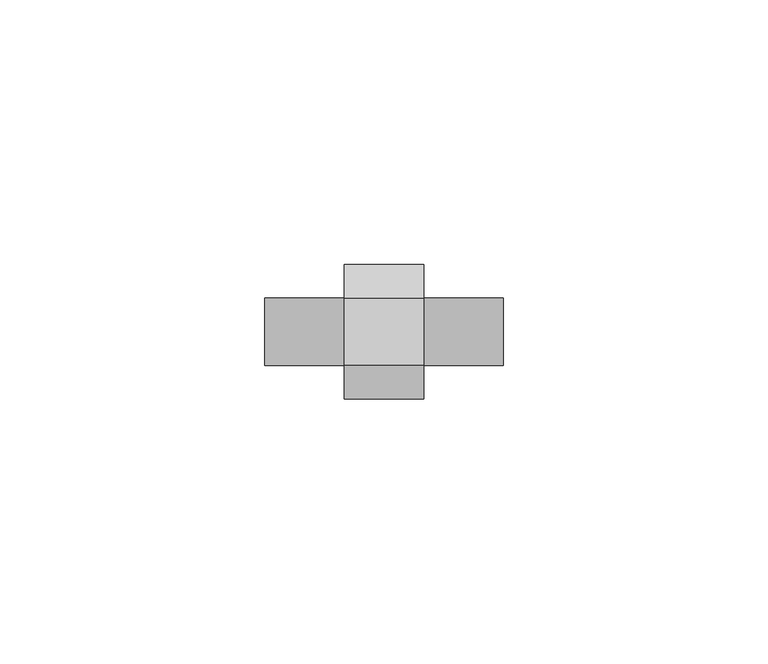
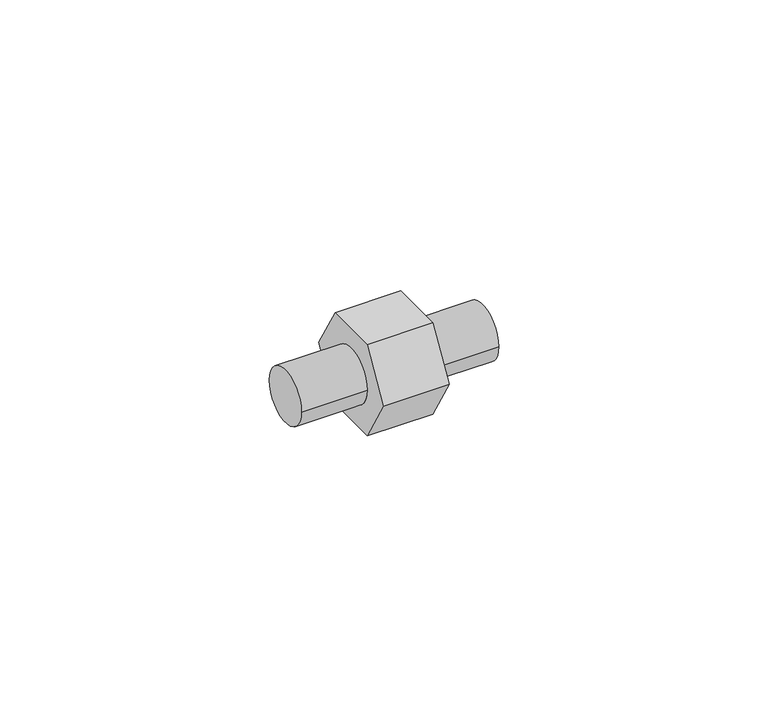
"""IFC4 building model written with IfcOpenShell, lengths in millimetres: pipe fitting geometry, 01011009 : Mamelons doubles."""

from ifc_helpers import new_model, si_unit, frame, origin, place, context, project, spatial, circle_curve, source, transform, mapped, element, save
from ifc_brep_helpers import plane_surface, cylinder_surface, advanced_brep


def pipe_fitting_ac9a2424(model_context):
    return source(origin(), model_context, "Body", "AdvancedBrep", [
        advanced_brep(
        [(7.5, -6.350853, 11.0), (7.5, -12.7017059, 0.0), (7.5, -6.350853, -11.0), (7.5, 6.350853, -11.0), (7.5, 12.7017059, 0.0), (7.5, 6.350853, 11.0), (7.5, -6.35, 0.0), (7.5, 6.35, 0.0), (-7.5, -6.350853, 11.0), (-7.5, 6.350853, 11.0), (-7.5, 12.7017059, 0.0), (-7.5, 6.350853, -11.0), (-7.5, -6.350853, -11.0), (-7.5, -12.7017059, 0.0), (-7.5, 6.35, 0.0), (-7.5, -6.35, 0.0), (-22.5, -6.35, 0.0), (-22.5, 6.35, 0.0), (22.5, -6.35, 0.0), (22.5, 6.35, 0.0)],
        [
            (0, 1),
            (1, 2),
            (2, 3),
            (3, 4),
            (4, 5),
            (5, 0),
            (6, 7, circle_curve(frame((7.5, 0.0, 0.0), z_axis=(-1.0, 0.0, 0.0), x_axis=(0.0, 1.0, 0.0)), 6.35)),
            (7, 6, circle_curve(frame((7.5, 0.0, 0.0), z_axis=(-1.0, 0.0, 0.0), x_axis=(0.0, 1.0, 0.0)), 6.35)),
            (8, 9),
            (9, 10),
            (10, 11),
            (11, 12),
            (12, 13),
            (13, 8),
            (14, 15, circle_curve(frame((-7.5, 0.0, 0.0), z_axis=(1.0, 0.0, 0.0), x_axis=(0.0, 1.0, 0.0)), 6.35)),
            (15, 14, circle_curve(frame((-7.5, 0.0, 0.0), z_axis=(1.0, 0.0, 0.0), x_axis=(0.0, 1.0, 0.0)), 6.35)),
            (0, 8),
            (13, 1),
            (12, 2),
            (11, 3),
            (10, 4),
            (9, 5),
            (16, 17, circle_curve(frame((-22.5, 0.0, 0.0), z_axis=(-1.0, 0.0, 0.0), x_axis=(0.0, 1.0, 0.0)), 6.35)),
            (17, 16, circle_curve(frame((-22.5, 0.0, 0.0), z_axis=(-1.0, 0.0, 0.0), x_axis=(0.0, 1.0, 0.0)), 6.35)),
            (18, 19, circle_curve(frame((22.5, 0.0, 0.0), z_axis=(1.0, 0.0, 0.0), x_axis=(0.0, 1.0, 0.0)), 6.35)),
            (19, 18, circle_curve(frame((22.5, 0.0, 0.0), z_axis=(1.0, 0.0, 0.0), x_axis=(0.0, 1.0, 0.0)), 6.35)),
            (16, 15),
            (14, 17),
            (19, 7),
            (6, 18),
        ],
        [
            plane_surface(frame((7.5, -6.350853, 11.0), z_axis=(1.0, 0.0, 0.0), x_axis=(0.0, -0.5000000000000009, -0.8660254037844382))),
            plane_surface(frame((-7.5, -6.350853, 11.0), z_axis=(-1.0, 0.0, 0.0), x_axis=(0.0, 0.5000000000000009, 0.8660254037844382))),
            plane_surface(frame((7.5, -6.350853, 11.0), z_axis=(0.0, -0.8660254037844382, 0.5000000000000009), x_axis=(-1.0, 0.0, 0.0))),
            plane_surface(frame((7.5, -12.7017059, 0.0), z_axis=(0.0, -0.8660254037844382, -0.5000000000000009), x_axis=(-1.0, 0.0, 0.0))),
            plane_surface(frame((7.5, -6.350853, -11.0), z_axis=(0.0, 0.0, -1.0), x_axis=(-1.0, 0.0, 0.0))),
            plane_surface(frame((7.5, 6.350853, -11.0), z_axis=(0.0, 0.8660254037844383, -0.5000000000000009), x_axis=(-1.0, 0.0, 0.0))),
            plane_surface(frame((7.5, 12.7017059, 0.0), z_axis=(0.0, 0.8660254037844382, 0.500000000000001), x_axis=(-1.0, 0.0, 0.0))),
            plane_surface(frame((7.5, 6.350853, 11.0), z_axis=(0.0, 0.0, 1.0), x_axis=(-1.0, 0.0, 0.0))),
            plane_surface(frame((-22.5, 0.0, 0.0), z_axis=(-1.0, 0.0, 0.0), x_axis=(0.0, 0.0, 1.0))),
            plane_surface(frame((22.5, 0.0, 0.0), z_axis=(1.0, 0.0, 0.0), x_axis=(0.0, 0.0, 1.0))),
            cylinder_surface(frame((-22.5, 0.0, 0.0), z_axis=(-1.0, 0.0, 0.0), x_axis=(0.0, 1.0, 0.0)), 6.35),
        ],
        [
            (0, [[1, 2, 3, 4, 5, 6], [7, 8]]),
            (1, [[9, 10, 11, 12, 13, 14], [15, 16]]),
            (2, [[-1, 17, -14, 18]]),
            (3, [[-2, -18, -13, 19]]),
            (4, [[-3, -19, -12, 20]]),
            (5, [[-4, -20, -11, 21]]),
            (6, [[-5, -21, -10, 22]]),
            (7, [[-6, -22, -9, -17]]),
            (8, [[23, 24]]),
            (9, [[25, 26]]),
            (10, [[-23, 27, -15, 28]]),
            (10, [[-26, 29, -7, 30]]),
            (10, [[-24, -28, -16, -27]]),
            (10, [[-25, -30, -8, -29]]),
        ],
    ),
    ])


if __name__ == "__main__":
    model = new_model("IFC4")
    model_context = context("Model", 3, world=origin())
    ifc_project = project(units=[si_unit("LENGTHUNIT", "METRE", prefix="MILLI")], contexts=[model_context])
    site = spatial("IfcSite", under=ifc_project)
    building = spatial("IfcBuilding", under=site)
    placement = place(None, origin())
    pipe_fitting_shape = pipe_fitting_ac9a2424(model_context)
    element("IfcPipeFitting", 1, ObjectType="01011009 : Mamelons doubles", at=placement, inside=building, context=model_context, shape_type="MappedRepresentation", body=[
        mapped(pipe_fitting_shape, transform((0.0, 0.0, 0.0), x_axis=(1.0, 0.0, 0.0), y_axis=(0.0, 1.0, 0.0), z_axis=(0.0, 0.0, 1.0))),
    ])
    save(model, "model.ifc")
